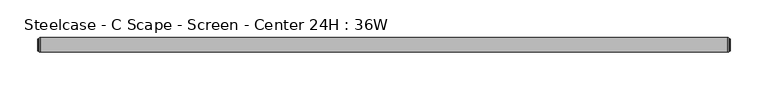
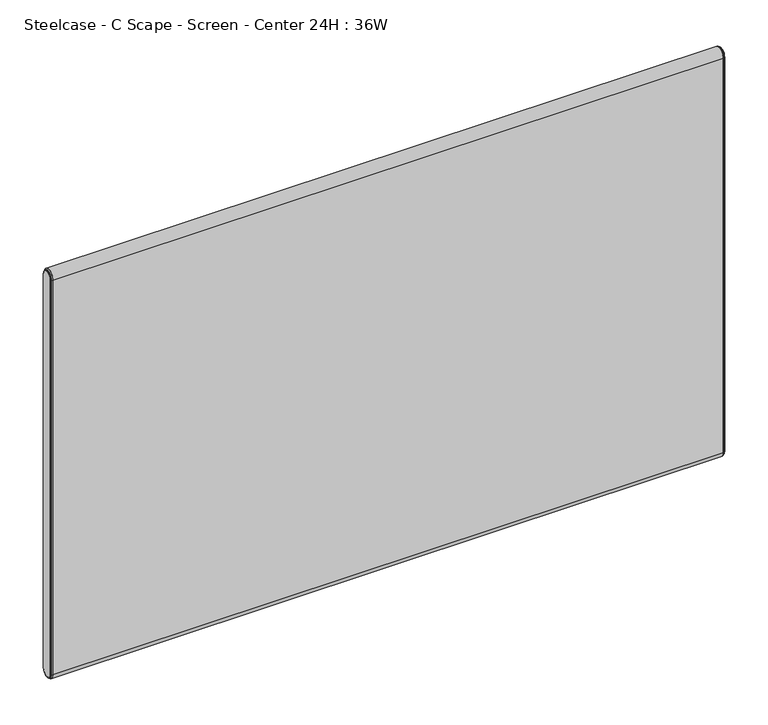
"""IFC4 building model written with IfcOpenShell, lengths in millimetres: furniture geometry, Steelcase - C Scape - Screen - Center 24H : 36W."""

from ifc_helpers import new_model, si_unit, point, frame, frame_2d, origin, place, context, project, spatial, polyline, circle_curve, ellipse_curve, trimmed, segment, composite_curve, outline, extrude, source, transform, mapped, element, save
from ifc_brep_helpers import plane_surface, cylinder_surface, revolved_surface, advanced_brep


def steelcase_c_scape_screen_center_24h_36w_d09c5045(model_context):
    return source(origin(), model_context, "Body", "SolidModel", [
        advanced_brep(
        [(910.8486613, -9.525, 1298.067), (910.8486613, 9.525, 1298.067), (910.8486613, 9.525, 732.9169758), (910.8486613, -9.525, 732.9169758), (913.6426613, 7.4929583, 1298.067), (913.6426613, -7.4929583, 1298.067), (913.6426613, -7.4929583, 732.9169758), (913.6426613, 7.4929583, 732.9169758), (913.1346545, -8.0009651, 1298.067), (913.1346545, 8.0009651, 1298.067), (911.8646613, 8.0009651, 1298.067), (911.8646613, -8.0009651, 1298.067), (911.8646613, -8.8204932, 1298.067), (911.8646613, 8.8204932, 1298.067), (911.8646613, -8.0009651, 732.9169758), (913.1346545, -8.0009651, 732.9169758), (911.8646613, -8.8204932, 732.9169758), (911.8646613, 8.0009651, 732.9169758), (913.1346545, 8.0009651, 732.9169758), (911.8646613, 8.8204932, 732.9169758)],
        [
            (0, 1, circle_curve(frame((910.8486613, 0.0, 1298.067), z_axis=(-1.0, 0.0, 0.0), x_axis=(0.0, 1.0, 0.0)), 9.525)),
            (1, 2),
            (2, 3, circle_curve(frame((910.8486613, 0.0, 732.9169758), z_axis=(-1.0, 0.0, 0.0), x_axis=(0.0, -1.0, 0.0)), 9.525)),
            (3, 0),
            (4, 5, circle_curve(frame((913.6426613, 0.0, 1298.067), z_axis=(1.0, 0.0, 0.0), x_axis=(0.0, 1.0, 0.0)), 7.4929583)),
            (5, 6),
            (6, 7, circle_curve(frame((913.6426613, 0.0, 732.9169758), z_axis=(1.0, 0.0, 0.0), x_axis=(0.0, -1.0, 0.0)), 7.4929583)),
            (7, 4),
            (8, 9, circle_curve(frame((913.1346545, 0.0, 1298.067), z_axis=(-1.0, 0.0, 0.0), x_axis=(0.0, 1.0, 0.0)), 8.0009651)),
            (9, 10),
            (10, 11, circle_curve(frame((911.8646613, 0.0, 1298.067), z_axis=(1.0, 0.0, 0.0), x_axis=(0.0, 1.0, 0.0)), 8.0009651)),
            (11, 8),
            (8, 5, circle_curve(frame((913.1346545, -7.4929583, 1298.067), z_axis=(0.0, 0.0, 1.0), x_axis=(0.0, -1.0, 0.0)), 0.5080068)),
            (4, 9, circle_curve(frame((913.1346545, 7.4929583, 1298.067), z_axis=(0.0, 0.0, 1.0), x_axis=(0.0, 1.0, 0.0)), 0.5080068)),
            (12, 13, circle_curve(frame((911.8646613, 0.0, 1298.067), z_axis=(-1.0, 0.0, 0.0), x_axis=(0.0, 1.0, 0.0)), 8.8204932)),
            (13, 1, circle_curve(frame((910.7806211, 8.3420139, 1298.067), z_axis=(0.0, 0.0, 1.0), x_axis=(0.0, 1.0, 0.0)), 1.1849411)),
            (0, 12, circle_curve(frame((910.7806211, -8.3420139, 1298.067), z_axis=(0.0, 0.0, 1.0), x_axis=(0.0, -1.0, 0.0)), 1.1849411)),
            (11, 14),
            (14, 15),
            (15, 8),
            (15, 6, circle_curve(frame((913.1346545, -7.4929583, 732.9169758), z_axis=(0.0, 0.0, 1.0), x_axis=(0.0, -1.0, 0.0)), 0.5080068)),
            (3, 16, circle_curve(frame((910.7806211, -8.3420139, 732.9169758), z_axis=(0.0, 0.0, 1.0), x_axis=(0.0, -1.0, 0.0)), 1.1849411)),
            (16, 12),
            (14, 17, circle_curve(frame((911.8646613, 0.0, 732.9169758), z_axis=(1.0, 0.0, 0.0), x_axis=(0.0, -1.0, 0.0)), 8.0009651)),
            (17, 18),
            (18, 15, circle_curve(frame((913.1346545, 0.0, 732.9169758), z_axis=(-1.0, 0.0, 0.0), x_axis=(0.0, -1.0, 0.0)), 8.0009651)),
            (18, 7, circle_curve(frame((913.1346545, 7.4929583, 732.9169758), z_axis=(0.0, 0.0, -1.0), x_axis=(0.0, 1.0, 0.0)), 0.5080068)),
            (2, 19, circle_curve(frame((910.7806211, 8.3420139, 732.9169758), z_axis=(0.0, 0.0, -1.0), x_axis=(0.0, 1.0, 0.0)), 1.1849411)),
            (19, 16, circle_curve(frame((911.8646613, 0.0, 732.9169758), z_axis=(-1.0, 0.0, 0.0), x_axis=(0.0, -1.0, 0.0)), 8.8204932)),
            (9, 18),
            (17, 10),
            (13, 19),
        ],
        [
            plane_surface(frame((910.8486613, -6.3509705, 1298.067), z_axis=(-1.0, 0.0, 0.0), x_axis=(0.0, 0.0, 1.0))),
            plane_surface(frame((913.6426613, -6.3509705, 1298.067), z_axis=(1.0, 0.0, 0.0), x_axis=(0.0, 0.0, -1.0))),
            cylinder_surface(frame((910.8486613, 0.0, 1298.067), z_axis=(1.0, 0.0, 0.0), x_axis=(0.0, 1.0, 0.0)), 8.0009651),
            revolved_surface(trimmed(ellipse_curve(frame((913.1346545, 7.4929583, 1298.067), z_axis=(0.0, 0.0, -1.0), x_axis=(0.0, 1.0, 0.0)), 0.5080068, 0.5080068), [point((913.1346545, 8.0009651, 1298.067))], [point((913.6426613, 7.4929583, 1298.067))], True, "CARTESIAN"), (910.8486613, 0.0, 1298.067), (1.0, 0.0, 0.0)),
            revolved_surface(trimmed(ellipse_curve(frame((910.7806211, 8.3420139, 1298.067), z_axis=(0.0, 0.0, -1.0), x_axis=(0.0, 1.0, 0.0)), 1.1849411, 1.1849411), [point((910.8486613, 9.525, 1298.067))], [point((911.8646613, 8.8204932, 1298.067))], True, "CARTESIAN"), (910.8486613, 0.0, 1298.067), (1.0, 0.0, 0.0)),
            plane_surface(frame((911.8646613, -8.0009651, 1298.067), z_axis=(0.0, -1.0, 0.0), x_axis=(0.0, 0.0, -1.0))),
            cylinder_surface(frame((913.1346545, -7.4929583, 1298.067), z_axis=(0.0, 0.0, 1.0), x_axis=(0.0, -1.0, 0.0)), 0.5080068),
            cylinder_surface(frame((910.7806211, -8.3420139, 1298.067), z_axis=(0.0, 0.0, 1.0), x_axis=(0.0, -1.0, 0.0)), 1.1849411),
            cylinder_surface(frame((910.8486613, 0.0, 732.9169758), z_axis=(1.0, 0.0, 0.0), x_axis=(0.0, -1.0, 0.0)), 8.0009651),
            revolved_surface(trimmed(ellipse_curve(frame((913.1346545, -7.4929583, 732.9169758), z_axis=(0.0, 0.0, 1.0), x_axis=(0.0, -1.0, 0.0)), 0.5080068, 0.5080068), [point((913.1346545, -8.0009651, 732.9169758))], [point((913.6426613, -7.4929583, 732.9169758))], True, "CARTESIAN"), (910.8486613, 0.0, 732.9169758), (1.0, 0.0, 0.0)),
            revolved_surface(trimmed(ellipse_curve(frame((910.7806211, -8.3420139, 732.9169758), z_axis=(0.0, 0.0, 1.0), x_axis=(0.0, -1.0, 0.0)), 1.1849411, 1.1849411), [point((910.8486613, -9.525, 732.9169758))], [point((911.8646613, -8.8204932, 732.9169758))], True, "CARTESIAN"), (910.8486613, 0.0, 732.9169758), (1.0, 0.0, 0.0)),
            plane_surface(frame((911.8646613, 8.0009651, 732.9169758), z_axis=(0.0, 1.0, 0.0), x_axis=(0.0, 0.0, 1.0))),
            cylinder_surface(frame((913.1346545, 7.4929583, 732.9169758), z_axis=(0.0, 0.0, -1.0), x_axis=(0.0, 1.0, 0.0)), 0.5080068),
            cylinder_surface(frame((910.7806211, 8.3420139, 732.9169758), z_axis=(0.0, 0.0, -1.0), x_axis=(0.0, 1.0, 0.0)), 1.1849411),
            plane_surface(frame((911.8646613, 8.8204932, 732.9169758), z_axis=(1.0, 0.0, 0.0), x_axis=(0.0, 0.0, 1.0))),
        ],
        [
            (0, [[1, 2, 3, 4]]),
            (1, [[5, 6, 7, 8]]),
            (2, [[9, 10, 11, 12]]),
            (3, [[-9, 13, -5, 14]]),
            (4, [[15, 16, -1, 17]]),
            (5, [[-12, 18, 19, 20]]),
            (6, [[-13, -20, 21, -6]]),
            (7, [[-17, -4, 22, 23]]),
            (8, [[-19, 24, 25, 26]]),
            (9, [[-21, -26, 27, -7]]),
            (10, [[-22, -3, 28, 29]]),
            (11, [[-10, 30, -25, 31]]),
            (12, [[-14, -8, -27, -30]]),
            (13, [[-16, 32, -28, -2]]),
            (14, [[-15, -23, -29, -32], [-11, -31, -24, -18]]),
        ],
    ),
        advanced_brep(
        [(2.7940155, 9.525, 1298.067), (2.7940155, -9.525, 1298.067), (2.7940155, -9.525, 732.917), (2.7940155, 9.525, 732.917), (0.0, -7.4929583, 1298.067), (0.0, 7.4929583, 1298.067), (0.0, 7.4929583, 732.917), (0.0, -7.4929583, 732.917), (1.778, 8.8204932, 1298.067), (1.778, -8.8204932, 1298.067), (0.5080068, -8.0009651, 1298.067), (0.5080068, 8.0009651, 1298.067), (1.778, -8.0009651, 1298.067), (1.778, 8.0009651, 1298.067), (1.778, -8.8204932, 732.917), (0.5080068, -8.0009651, 732.917), (1.778, -8.0009651, 732.917), (1.778, 8.8204932, 732.917), (0.5080068, 8.0009651, 732.917), (1.778, 8.0009651, 732.917)],
        [
            (0, 1, circle_curve(frame((2.7940155, 0.0, 1298.067), z_axis=(1.0, 0.0, 0.0), x_axis=(0.0, 1.0, 0.0)), 9.525)),
            (1, 2),
            (2, 3, circle_curve(frame((2.7940155, 0.0, 732.917), z_axis=(1.0, 0.0, 0.0), x_axis=(0.0, -1.0, 0.0)), 9.525)),
            (3, 0),
            (4, 5, circle_curve(frame((0.0, 0.0, 1298.067), z_axis=(-1.0, 0.0, 0.0), x_axis=(0.0, 1.0, 0.0)), 7.4929583)),
            (5, 6),
            (6, 7, circle_curve(frame((0.0, 0.0, 732.917), z_axis=(-1.0, 0.0, 0.0), x_axis=(0.0, -1.0, 0.0)), 7.4929583)),
            (7, 4),
            (0, 8, circle_curve(frame((2.8620402, 8.3420139, 1298.067), z_axis=(0.0, 0.0, 1.0), x_axis=(0.0, -1.0, 0.0)), 1.1849411)),
            (8, 9, circle_curve(frame((1.778, 0.0, 1298.067), z_axis=(1.0, 0.0, 0.0), x_axis=(0.0, 1.0, 0.0)), 8.8204932)),
            (9, 1, circle_curve(frame((2.8620402, -8.3420139, 1298.067), z_axis=(0.0, 0.0, 1.0), x_axis=(0.0, 1.0, 0.0)), 1.1849411)),
            (10, 11, circle_curve(frame((0.5080068, 0.0, 1298.067), z_axis=(-1.0, 0.0, 0.0), x_axis=(0.0, 1.0, 0.0)), 8.0009651)),
            (11, 5, circle_curve(frame((0.5080068, 7.4929583, 1298.067), z_axis=(0.0, 0.0, 1.0), x_axis=(0.0, -1.0, 0.0)), 0.5080068)),
            (4, 10, circle_curve(frame((0.5080068, -7.4929583, 1298.067), z_axis=(0.0, 0.0, 1.0), x_axis=(0.0, 1.0, 0.0)), 0.5080068)),
            (10, 12),
            (12, 13, circle_curve(frame((1.778, 0.0, 1298.067), z_axis=(-1.0, 0.0, 0.0), x_axis=(0.0, 1.0, 0.0)), 8.0009651)),
            (13, 11),
            (9, 14),
            (14, 2, circle_curve(frame((2.8620402, -8.3420139, 732.917), z_axis=(0.0, 0.0, 1.0), x_axis=(0.0, 1.0, 0.0)), 1.1849411)),
            (7, 15, circle_curve(frame((0.5080068, -7.4929583, 732.917), z_axis=(0.0, 0.0, 1.0), x_axis=(0.0, 1.0, 0.0)), 0.5080068)),
            (15, 10),
            (15, 16),
            (16, 12),
            (14, 17, circle_curve(frame((1.778, 0.0, 732.917), z_axis=(1.0, 0.0, 0.0), x_axis=(0.0, -1.0, 0.0)), 8.8204932)),
            (17, 3, circle_curve(frame((2.8620402, 8.3420139, 732.917), z_axis=(0.0, 0.0, -1.0), x_axis=(0.0, -1.0, 0.0)), 1.1849411)),
            (6, 18, circle_curve(frame((0.5080068, 7.4929583, 732.917), z_axis=(0.0, 0.0, -1.0), x_axis=(0.0, -1.0, 0.0)), 0.5080068)),
            (18, 15, circle_curve(frame((0.5080068, 0.0, 732.917), z_axis=(-1.0, 0.0, 0.0), x_axis=(0.0, -1.0, 0.0)), 8.0009651)),
            (18, 19),
            (19, 16, circle_curve(frame((1.778, 0.0, 732.917), z_axis=(-1.0, 0.0, 0.0), x_axis=(0.0, -1.0, 0.0)), 8.0009651)),
            (8, 17),
            (19, 13),
            (11, 18),
        ],
        [
            plane_surface(frame((2.7940155, -6.3509705, 1298.067), z_axis=(1.0, 0.0, 0.0), x_axis=(0.0, 0.0, -1.0))),
            plane_surface(frame((0.0, -6.3509705, 1298.067), z_axis=(-1.0, 0.0, 0.0), x_axis=(0.0, 0.0, 1.0))),
            revolved_surface(trimmed(ellipse_curve(frame((2.8620402, 8.3420139, 1298.067), z_axis=(0.0, 0.0, -1.0), x_axis=(0.0, -1.0, 0.0)), 1.1849411, 1.1849411), [point((1.778, 8.8204932, 1298.067))], [point((2.794, 9.525, 1298.067))], True, "CARTESIAN"), (2.794, 0.0, 1298.067), (1.0, 0.0, 0.0)),
            revolved_surface(trimmed(ellipse_curve(frame((0.5080068, 7.4929583, 1298.067), z_axis=(0.0, 0.0, -1.0), x_axis=(0.0, -1.0, 0.0)), 0.5080068, 0.5080068), [point((0.0, 7.4929583, 1298.067))], [point((0.5080068, 8.0009651, 1298.067))], True, "CARTESIAN"), (2.794, 0.0, 1298.067), (1.0, 0.0, 0.0)),
            cylinder_surface(frame((2.794, 0.0, 1298.067), z_axis=(1.0, 0.0, 0.0), x_axis=(0.0, 1.0, 0.0)), 8.0009651),
            cylinder_surface(frame((2.8620402, -8.3420139, 1298.067), z_axis=(0.0, 0.0, 1.0), x_axis=(0.0, 1.0, 0.0)), 1.1849411),
            cylinder_surface(frame((0.5080068, -7.4929583, 1298.067), z_axis=(0.0, 0.0, 1.0), x_axis=(0.0, 1.0, 0.0)), 0.5080068),
            plane_surface(frame((0.5080068, -8.0009651, 1298.067), z_axis=(0.0, -1.0, 0.0), x_axis=(0.0, 0.0, -1.0))),
            revolved_surface(trimmed(ellipse_curve(frame((2.8620402, -8.3420139, 732.917), z_axis=(0.0, 0.0, 1.0), x_axis=(0.0, 1.0, 0.0)), 1.1849411, 1.1849411), [point((1.778, -8.8204932, 732.917))], [point((2.794, -9.525, 732.917))], True, "CARTESIAN"), (2.794, 0.0, 732.917), (1.0, 0.0, 0.0)),
            revolved_surface(trimmed(ellipse_curve(frame((0.5080068, -7.4929583, 732.917), z_axis=(0.0, 0.0, 1.0), x_axis=(0.0, 1.0, 0.0)), 0.5080068, 0.5080068), [point((0.0, -7.4929583, 732.917))], [point((0.5080068, -8.0009651, 732.917))], True, "CARTESIAN"), (2.794, 0.0, 732.917), (1.0, 0.0, 0.0)),
            cylinder_surface(frame((2.794, 0.0, 732.917), z_axis=(1.0, 0.0, 0.0), x_axis=(0.0, -1.0, 0.0)), 8.0009651),
            plane_surface(frame((1.778, 8.0009651, 732.917), z_axis=(-1.0, 0.0, 0.0), x_axis=(0.0, 0.0, 1.0))),
            cylinder_surface(frame((2.8620402, 8.3420139, 732.917), z_axis=(0.0, 0.0, -1.0), x_axis=(0.0, -1.0, 0.0)), 1.1849411),
            cylinder_surface(frame((0.5080068, 7.4929583, 732.917), z_axis=(0.0, 0.0, -1.0), x_axis=(0.0, -1.0, 0.0)), 0.5080068),
            plane_surface(frame((0.5080068, 8.0009651, 732.917), z_axis=(0.0, 1.0, 0.0), x_axis=(0.0, 0.0, 1.0))),
        ],
        [
            (0, [[1, 2, 3, 4]]),
            (1, [[5, 6, 7, 8]]),
            (2, [[-1, 9, 10, 11]]),
            (3, [[12, 13, -5, 14]]),
            (4, [[-12, 15, 16, 17]]),
            (5, [[-11, 18, 19, -2]]),
            (6, [[-14, -8, 20, 21]]),
            (7, [[-15, -21, 22, 23]]),
            (8, [[-19, 24, 25, -3]]),
            (9, [[-20, -7, 26, 27]]),
            (10, [[-22, -27, 28, 29]]),
            (11, [[-10, 30, -24, -18], [-16, -23, -29, 31]]),
            (12, [[-9, -4, -25, -30]]),
            (13, [[-13, 32, -26, -6]]),
            (14, [[-17, -31, -28, -32]]),
        ],
    ),
        extrude(outline(composite_curve([segment(trimmed(circle_curve(frame_2d((0.0, 1298.067)), 9.525), [point((-9.525, 1298.067))], [point((9.525, 1298.067))], False, "CARTESIAN"), True, "CONTINUOUS"), segment(polyline([(9.525, 1298.067), (9.525, 732.917)]), True, "CONTINUOUS"), segment(trimmed(circle_curve(frame_2d((0.0, 732.917)), 9.525), [point((9.525, 732.917))], [point((-9.525, 732.917))], False, "CARTESIAN"), True, "CONTINUOUS"), segment(polyline([(-9.525, 732.917), (-9.525, 1298.067)]), True, "CONTINUOUS")], self_intersect=False)), frame((2.794, 0.0, 0.0), z_axis=(1.0, 0.0, 0.0), x_axis=(0.0, 1.0, 0.0)), (0.0, 0.0, 1.0), 908.0546613),
    ])


if __name__ == "__main__":
    model = new_model("IFC4")
    model_context = context("Model", 3, world=origin())
    ifc_project = project(units=[si_unit("LENGTHUNIT", "METRE", prefix="MILLI")], contexts=[model_context])
    site = spatial("IfcSite", under=ifc_project)
    building = spatial("IfcBuilding", under=site)
    placement = place(None, origin())
    steelcase_c_scape_screen_center_24h_36w_shape = steelcase_c_scape_screen_center_24h_36w_d09c5045(model_context)
    element("IfcFurniture", 1, ObjectType="Steelcase - C Scape - Screen - Center 24H : 36W", at=placement, inside=building, context=model_context, shape_type="MappedRepresentation", body=[
        mapped(steelcase_c_scape_screen_center_24h_36w_shape, transform((0.0, 0.0, 0.0), x_axis=(1.0, 0.0, 0.0), y_axis=(0.0, 1.0, 0.0), z_axis=(0.0, 0.0, 1.0))),
    ])
    save(model, "model.ifc")
